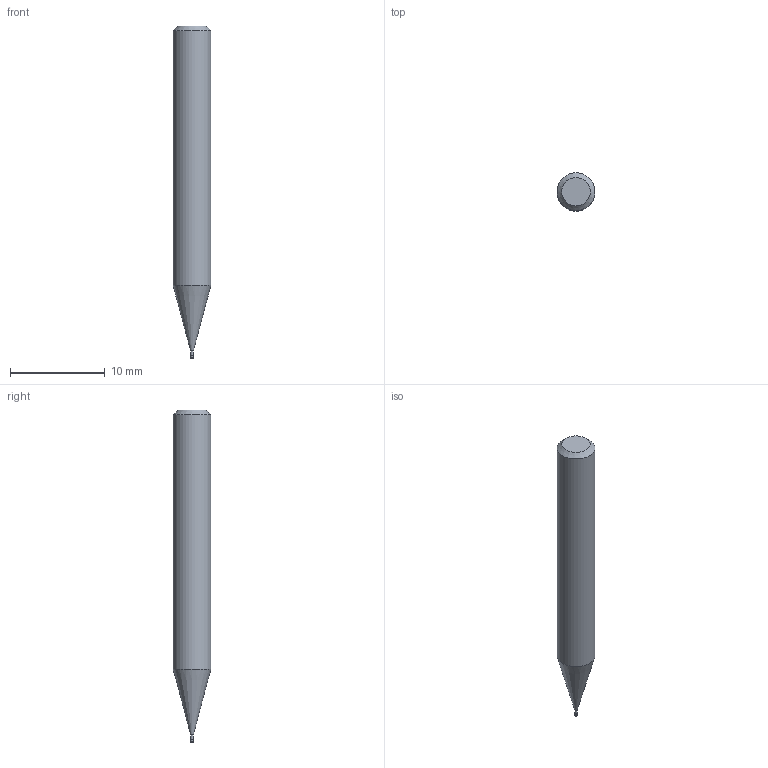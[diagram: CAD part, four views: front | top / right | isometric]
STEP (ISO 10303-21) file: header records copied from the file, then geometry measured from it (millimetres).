
FILE_DESCRIPTION((''),'2;1');
FILE_NAME('C:\Users\nsx150\AppData\Local\Temp\Mastercam 2021\80JYEHYUML\TEMP.step','2022-03-29T14:34:48',(''),(''),'STEP Write','Mastercam 2021 ... CNC Software, Inc.','');
FILE_SCHEMA(('AUTOMOTIVE_DESIGN'));
Length unit declared in the file: millimetre
Products named in the file (1): None
Bounding box: 4 x 4 x 35 mm (x, y, z)
Volume: 373 mm3; surface area: 400.9 mm2
Topology: 2 solids, 2 shells, 10 faces, 14 edges, 8 vertices
Faces by surface type: plane 4, cylinder 3, cone 2, torus 1
Full cylindrical faces by diameter (mm): 0.28 x1, 0.3 x1, 4 x1
Entity records: 232 total; most frequent: DIRECTION 40, CARTESIAN_POINT 28, AXIS2_PLACEMENT_3D 20, ORIENTED_EDGE 16, EDGE_LOOP 16, STYLED_ITEM 13, ADVANCED_FACE 10, FACE_BOUND 10
